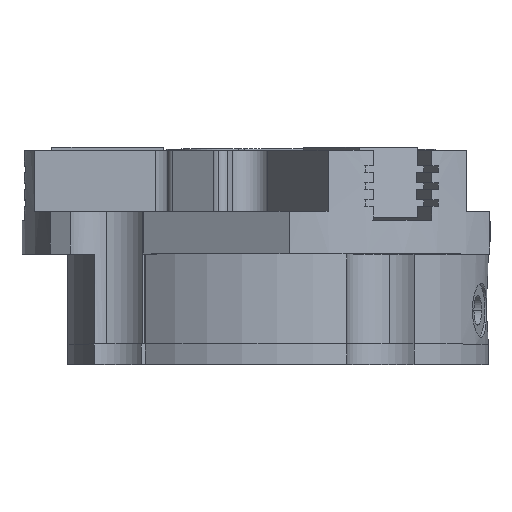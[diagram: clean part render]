
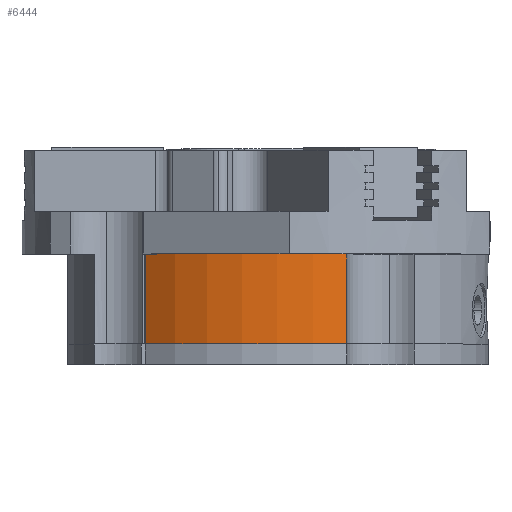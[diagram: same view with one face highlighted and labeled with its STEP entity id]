
A CAD part, top view. The second image highlights one B-rep face of the part: STEP entity #6444.
In plain terms, the highlighted cylindrical face has radius 62.5 mm (diameter 125 mm), a partial arc.
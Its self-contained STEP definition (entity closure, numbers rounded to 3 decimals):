
#28 = CARTESIAN_POINT ( 'NONE',  ( 0., -30.5, 0. ) ) ;
#363 = CARTESIAN_POINT ( 'NONE',  ( 0., -57., 0. ) ) ;
#661 = LINE ( 'NONE', #1701, #9653 ) ;
#1306 = CIRCLE ( 'NONE', #7753, 62.5 ) ;
#1701 = CARTESIAN_POINT ( 'NONE',  ( 20.822, -6.283, 58.93 ) ) ;
#2401 = DIRECTION ( 'NONE',  ( 0., 1., 0. ) ) ;
#2425 = CYLINDRICAL_SURFACE ( 'NONE', #3656, 62.5 ) ;
#2453 = CARTESIAN_POINT ( 'NONE',  ( 20.822, -30.5, 58.93 ) ) ;
#2778 = DIRECTION ( 'NONE',  ( 0., 1., 0. ) ) ;
#3467 = DIRECTION ( 'NONE',  ( 0., -1., 0. ) ) ;
#3569 = CARTESIAN_POINT ( 'NONE',  ( -38.659, -57., 49.109 ) ) ;
#3656 = AXIS2_PLACEMENT_3D ( 'NONE', #28, #9661, #5480 ) ;
#3786 = FACE_OUTER_BOUND ( 'NONE', #7171, .T. ) ;
#3949 = LINE ( 'NONE', #4227, #4765 ) ;
#4227 = CARTESIAN_POINT ( 'NONE',  ( -38.659, -30.5, 49.109 ) ) ;
#4765 = VECTOR ( 'NONE', #11721, 1000. ) ;
#4790 = EDGE_CURVE ( 'NONE', #7179, #10444, #661, .T. ) ;
#5480 = DIRECTION ( 'NONE',  ( 0., 0., -1. ) ) ;
#5877 = CARTESIAN_POINT ( 'NONE',  ( 20.822, -57., 58.93 ) ) ;
#6444 = ADVANCED_FACE ( 'NONE', ( #3786 ), #2425, .T. ) ;
#6849 = ORIENTED_EDGE ( 'NONE', *, *, #4790, .T. ) ;
#7171 = EDGE_LOOP ( 'NONE', ( #6849, #10652, #7718, #12050 ) ) ;
#7179 = VERTEX_POINT ( 'NONE', #5877 ) ;
#7680 = DIRECTION ( 'NONE',  ( 0., 0., -1. ) ) ;
#7718 = ORIENTED_EDGE ( 'NONE', *, *, #9899, .T. ) ;
#7753 = AXIS2_PLACEMENT_3D ( 'NONE', #363, #2401, #7680 ) ;
#8067 = CARTESIAN_POINT ( 'NONE',  ( -38.659, -30.5, 49.109 ) ) ;
#8377 = EDGE_CURVE ( 'NONE', #13114, #7179, #1306, .T. ) ;
#9653 = VECTOR ( 'NONE', #2778, 1000. ) ;
#9661 = DIRECTION ( 'NONE',  ( 0., -1., 0. ) ) ;
#9899 = EDGE_CURVE ( 'NONE', #12686, #13114, #3949, .T. ) ;
#10253 = AXIS2_PLACEMENT_3D ( 'NONE', #10966, #3467, #11018 ) ;
#10317 = CIRCLE ( 'NONE', #10253, 62.5 ) ;
#10444 = VERTEX_POINT ( 'NONE', #2453 ) ;
#10652 = ORIENTED_EDGE ( 'NONE', *, *, #13117, .T. ) ;
#10966 = CARTESIAN_POINT ( 'NONE',  ( 0., -30.5, 0. ) ) ;
#11018 = DIRECTION ( 'NONE',  ( 0., 0., -1. ) ) ;
#11721 = DIRECTION ( 'NONE',  ( 0., -1., 0. ) ) ;
#12050 = ORIENTED_EDGE ( 'NONE', *, *, #8377, .T. ) ;
#12686 = VERTEX_POINT ( 'NONE', #8067 ) ;
#13114 = VERTEX_POINT ( 'NONE', #3569 ) ;
#13117 = EDGE_CURVE ( 'NONE', #10444, #12686, #10317, .T. ) ;
